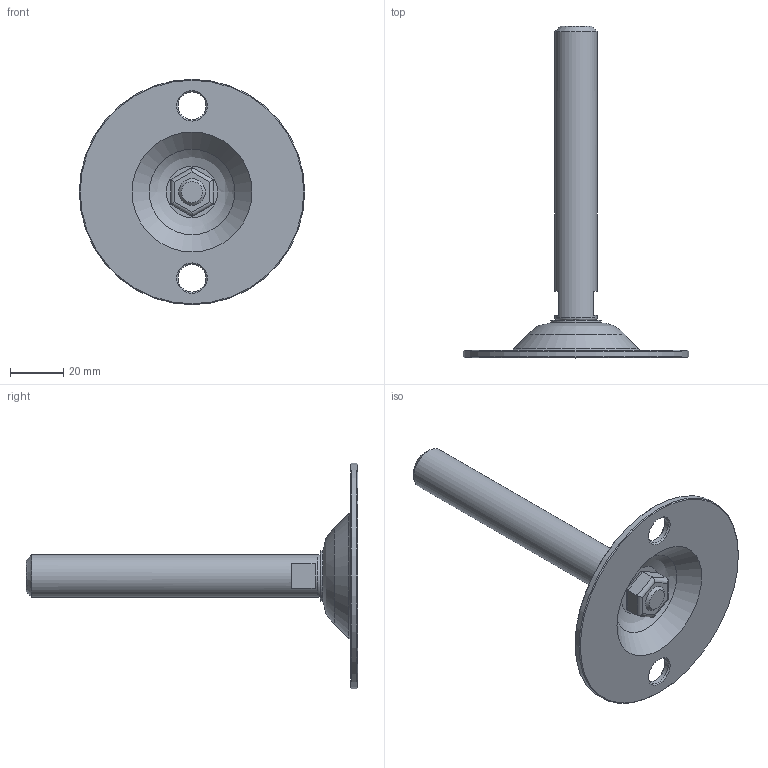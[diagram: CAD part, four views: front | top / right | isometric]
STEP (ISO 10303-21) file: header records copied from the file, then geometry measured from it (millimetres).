
FILE_DESCRIPTION(('STEP AP203'),'2;1');
FILE_NAME('15828.stp','2015-10-02T07:17:48',(''),(''),'2008.1.107','THINKDESIGN','');
FILE_SCHEMA(('CONFIG_CONTROL_DESIGN'));
Length unit declared in the file: millimetre
Bounding box: 85 x 125.13 x 85 mm (x, y, z)
Volume: 40737.3 mm3; surface area: 20122.6 mm2
Topology: 5 solids, 5 shells, 60 faces, 145 edges, 100 vertices
Faces by surface type: plane 24, bspline 18, cylinder 18
Full cylindrical faces by diameter (mm): 10.366 x1, 10.5 x2, 16 x1, 19 x1, 85 x1
Entity records: 3647 total; most frequent: CARTESIAN_POINT 2046, DIRECTION 293, ORIENTED_EDGE 288, EDGE_CURVE 144, AXIS2_PLACEMENT_3D 118, VERTEX_POINT 98, CIRCLE 76, EDGE_LOOP 70
